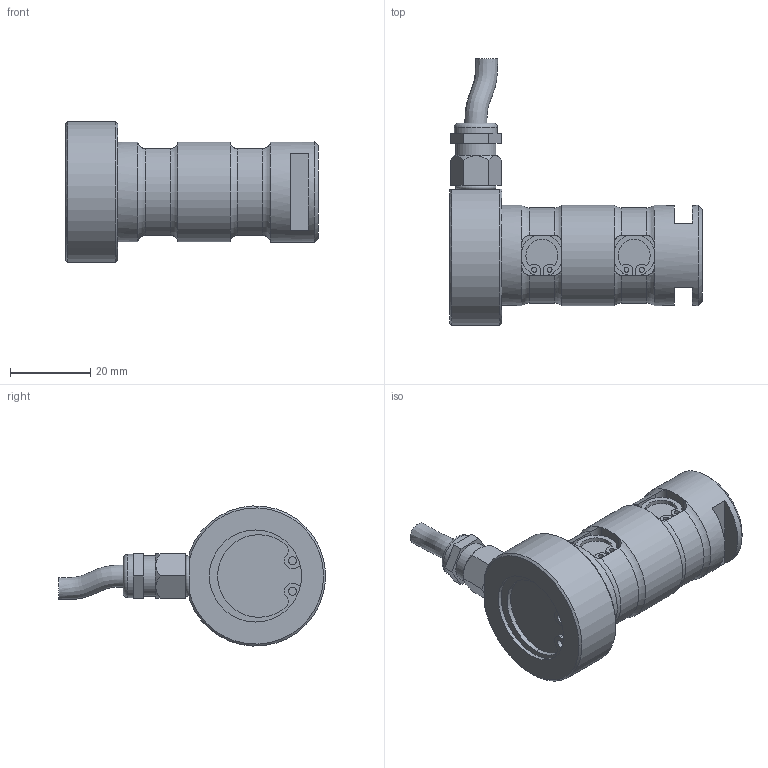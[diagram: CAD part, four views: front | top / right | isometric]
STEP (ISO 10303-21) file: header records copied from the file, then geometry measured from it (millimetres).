
FILE_DESCRIPTION(/* description */ ('Alibre Inc.'),/* implementation_level */ '2;1');
FILE_NAME(/* name */ 'export-4D56866B-EFBE-4338-B1AC-463A7BC12824',/* time_stamp */ '2025-08-08T11:06:57+02:00',/* author */ (''),/* organization */ (''),/* preprocessor_version */ 'ST-DEVELOPER v17',/* originating_system */ 'Alibre',/* authorisation */ '');
FILE_SCHEMA (('CONFIG_CONTROL_DESIGN'));
Length unit declared in the file: centimetre
Products named in the file (8): 1; SEEGER-ORBIS | J 23
Bounding box: 63 x 66.55 x 34.97 mm (x, y, z)
Volume: 35010.6 mm3; surface area: 10847.3 mm2
Topology: 9 solids, 9 shells, 257 faces, 617 edges, 404 vertices
Faces by surface type: cylinder 132, plane 107, torus 11, cone 6, bspline 1
Full cylindrical faces by diameter (mm): 5.5 x2, 6 x1, 7 x1, 8 x1, 10 x1, 10.8 x1, 23 x2, 24.1 x1, 25 x3
Entity records: 6187 total; most frequent: CARTESIAN_POINT 1272, ORIENTED_EDGE 856, DIRECTION 744, EDGE_CURVE 428, AXIS2_PLACEMENT_3D 304, VERTEX_POINT 290, FACE_BOUND 254, EDGE_LOOP 253
